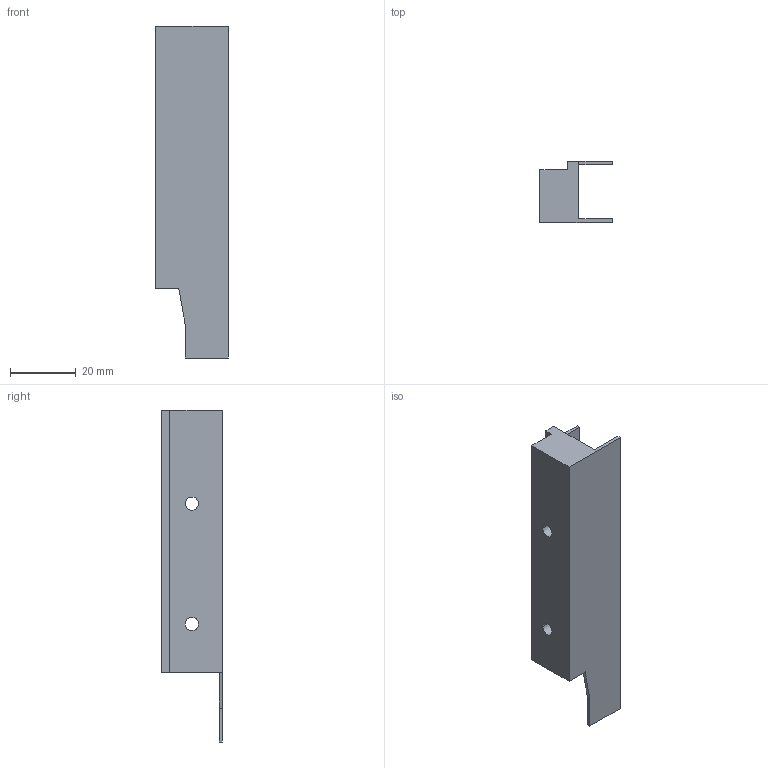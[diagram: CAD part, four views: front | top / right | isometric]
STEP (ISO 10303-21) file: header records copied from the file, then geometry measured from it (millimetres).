
FILE_DESCRIPTION (( 'STEP AP214' ), '1' );
FILE_NAME ('DWD-XP_Holzrueckwandadapter links H118 offen.step', '2010-09-27T15:14:16', ( 'grass' ), ( '' ), 'SwSTEP 2.0', 'SolidWorks 2010', '' );
FILE_SCHEMA (( 'AUTOMOTIVE_DESIGN' ));
Length unit declared in the file: millimetre
Products named in the file (1): DWD-XP_Holzrueckwandadapter links H118 offen
Bounding box: 22 x 18.5 x 101 mm (x, y, z)
Volume: 16938.5 mm3; surface area: 8358.7 mm2
Topology: 1 solids, 1 shells, 29 faces, 81 edges, 54 vertices
Faces by surface type: plane 21, cylinder 8
Entity records: 981 total; most frequent: CARTESIAN_POINT 165, ORIENTED_EDGE 162, DIRECTION 157, EDGE_CURVE 81, LINE 65, VECTOR 65, VERTEX_POINT 54, AXIS2_PLACEMENT_3D 46
